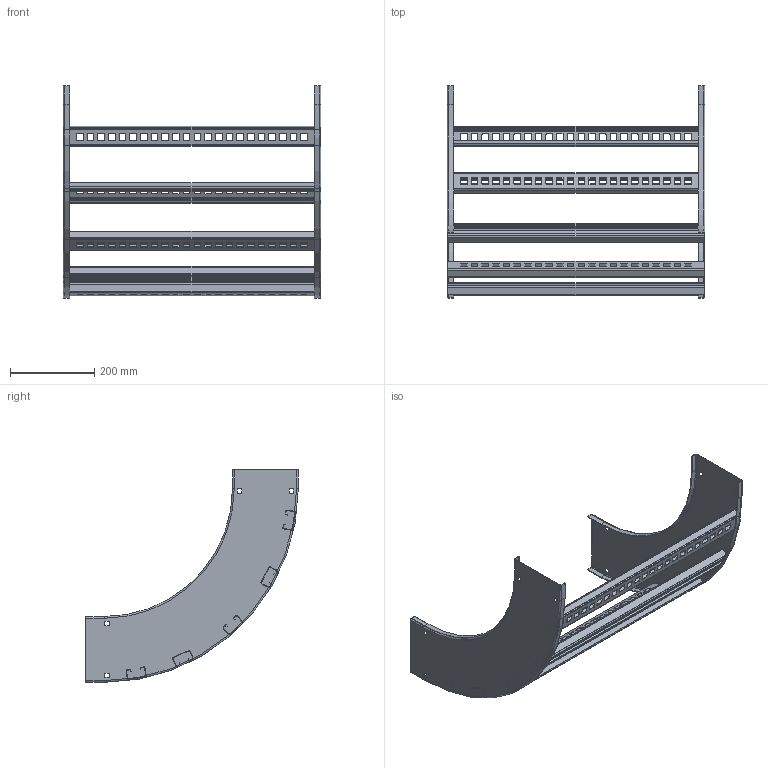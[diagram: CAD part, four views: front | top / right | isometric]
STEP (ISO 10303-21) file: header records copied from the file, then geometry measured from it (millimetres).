
FILE_DESCRIPTION((''),'2;1');
FILE_NAME('AUF624VVI9012_ASM','2010-01-28T',('erouzier'),(''),'PRO/ENGINEER BY PARAMETRIC TECHNOLOGY CORPORATION, 2008510','PRO/ENGINEER BY PARAMETRIC TECHNOLOGY CORPORATION, 2008510','');
FILE_SCHEMA(('CONFIG_CONTROL_DESIGN'));
Length unit declared in the file: inch
Products named in the file (3): CDS001418_6_90_12; CDS002159L24-P; AUF624VVI9012_ASM
Assembly tree (7 placements, depth 2):
  AUF624VVI9012_ASM
    CDS001418_6_90_12  x2
    CDS002159L24-P  x5
Bounding box: 613.71 x 505.76 x 505.76 mm (x, y, z)
Volume: 906156.8 mm3; surface area: 1180800.7 mm2
Topology: 7 solids, 7 shells, 1146 faces, 3332 edges, 2200 vertices
Faces by surface type: plane 619, cylinder 519, torus 8
Entity records: 8800 total; most frequent: DIRECTION 1522, CARTESIAN_POINT 1510, ORIENTED_EDGE 1496, EDGE_CURVE 748, VECTOR 522, LINE 522, AXIS2_PLACEMENT_3D 500, VERTEX_POINT 488
